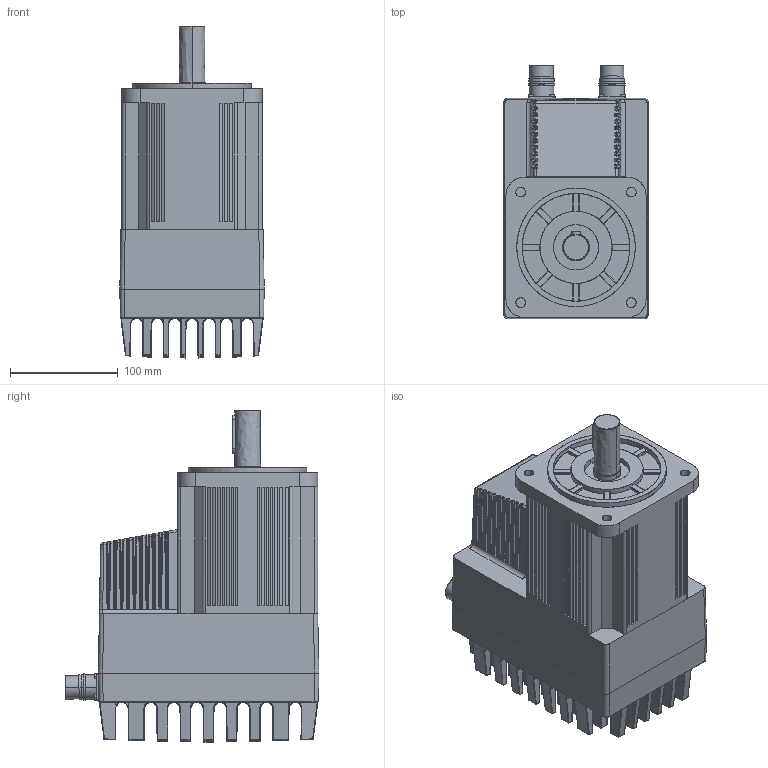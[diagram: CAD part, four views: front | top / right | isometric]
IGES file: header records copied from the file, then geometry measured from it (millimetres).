
Start section: Comment
Global section: file name: MAC1500-D2 V1_3.igs; native system:  By UGS Corp.; preprocessor: XPlus GENERIC/IGES 3.0; author: Author; organization: Title; date: 20150617.131557; units: millimetre
Bounding box: 133.88 x 235.28 x 307.98 mm (x, y, z)
Surface area: 433086.2 mm2 (no closed solid volume)
Topology: 0 solids, 0 shells, 2545 faces, 12507 edges, 12460 vertices
Faces by surface type: bspline 2545
